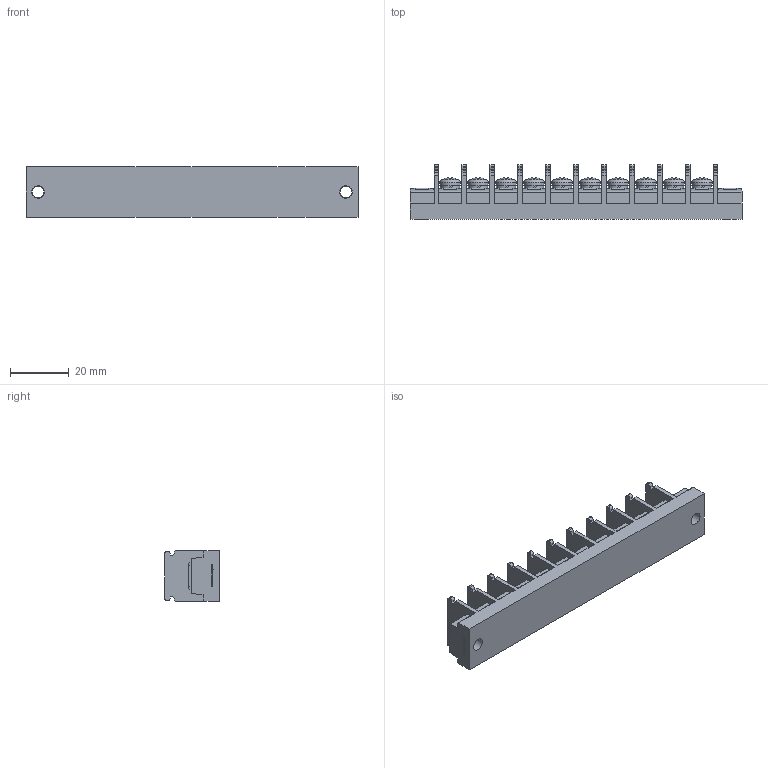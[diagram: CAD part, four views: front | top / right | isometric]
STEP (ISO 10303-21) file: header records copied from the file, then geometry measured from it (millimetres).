
FILE_DESCRIPTION(/* description */ ('Alibre Inc.'),/* implementation_level */ '2;1');
FILE_NAME(/* name */ 'export-31354DEF-8888-4113-ACC4-3EB9A37329B4',/* time_stamp */ '2021-02-02T10:40:12+09:00',/* author */ (''),/* organization */ (''),/* preprocessor_version */ 'ST-DEVELOPER v17',/* originating_system */ 'Alibre',/* authorisation */ '');
FILE_SCHEMA (('CONFIG_CONTROL_DESIGN'));
Length unit declared in the file: millimetre
Bounding box: 112.7 x 18.5 x 17 mm (x, y, z)
Volume: 19846.1 mm3; surface area: 12506.7 mm2
Topology: 1 solids, 11 shells, 1140 faces, 3134 edges, 2080 vertices
Faces by surface type: plane 796, cylinder 160, bspline 104, cone 50, torus 20, sphere 10
Full cylindrical faces by diameter (mm): 4 x22, 4.2 x2, 6.5 x10, 7 x10
Entity records: 35019 total; most frequent: CARTESIAN_POINT 7474, ORIENTED_EDGE 6056, DIRECTION 4658, EDGE_CURVE 3028, VECTOR 2110, LINE 2110, VERTEX_POINT 2038, AXIS2_PLACEMENT_3D 1678
